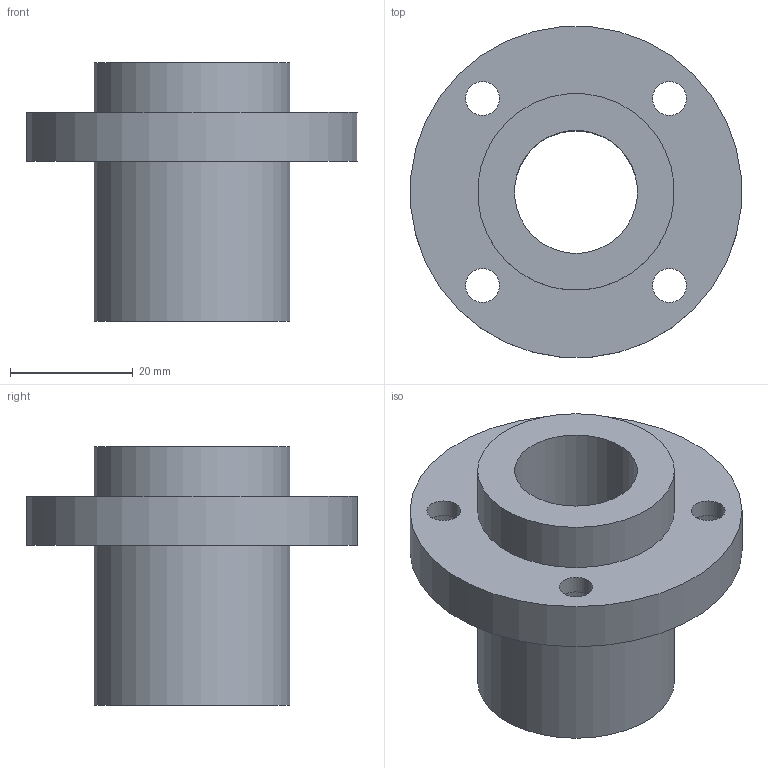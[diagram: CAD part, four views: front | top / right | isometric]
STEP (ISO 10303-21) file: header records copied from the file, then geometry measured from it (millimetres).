
FILE_DESCRIPTION(/* description */ (''),/* implementation_level */ '2;1');
FILE_NAME(/* name */ 'LMFP20UU',/* time_stamp */ '2019-07-03T11:33:10+02:00',/* author */ ('VĂ©gh MĂˇtĂ©'),/* organization */ ('Bearing Kft'),/* preprocessor_version */ 'ST-DEVELOPER v16.7',/* originating_system */ 'DEX',/* authorisation */ $);
FILE_SCHEMA (('AUTOMOTIVE_DESIGN {1 0 10303 214 3 1 1}'));
Length unit declared in the file: millimetre
Products named in the file (1): LMFP20UU
Bounding box: 53.79 x 53.79 x 42 mm (x, y, z)
Volume: 30893.7 mm3; surface area: 11977.9 mm2
Topology: 1 solids, 1 shells, 325 faces, 811 edges, 542 vertices
Faces by surface type: plane 250, bspline 61, cylinder 14
Full cylindrical faces by diameter (mm): 5.5 x4, 9 x4, 20 x1, 32 x2, 54 x1
Entity records: 12684 total; most frequent: CARTESIAN_POINT 5323, ORIENTED_EDGE 1584, DIRECTION 1228, EDGE_CURVE 792, LINE 642, VECTOR 642, VERTEX_POINT 538, EDGE_LOOP 404
